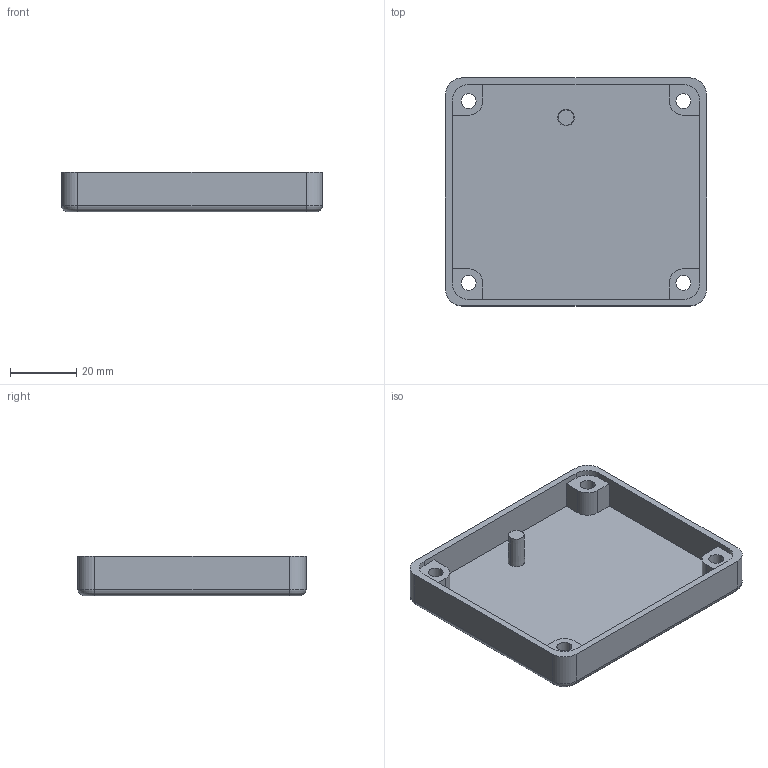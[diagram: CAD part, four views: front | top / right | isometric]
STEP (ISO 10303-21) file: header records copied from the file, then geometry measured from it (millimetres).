
FILE_DESCRIPTION (( 'STEP AP203' ), '1' );
FILE_NAME ('Caixa Valk-Boss-Extrude3.STEP', '2023-12-12T02:54:19', ( '' ), ( '' ), 'SwSTEP 2.0', 'SolidWorks 2023', '' );
FILE_SCHEMA (( 'CONFIG_CONTROL_DESIGN' ));
Length unit declared in the file: millimetre
Products named in the file (1): Caixa Valk-Boss-Extrude3
Bounding box: 79 x 69 x 12 mm (x, y, z)
Volume: 18436.3 mm3; surface area: 17388.6 mm2
Topology: 1 solids, 1 shells, 54 faces, 142 edges, 92 vertices
Faces by surface type: cylinder 24, plane 24, torus 4, cone 2
Entity records: 1771 total; most frequent: DIRECTION 308, CARTESIAN_POINT 289, ORIENTED_EDGE 284, EDGE_CURVE 142, AXIS2_PLACEMENT_3D 111, VERTEX_POINT 92, VECTOR 86, LINE 86
